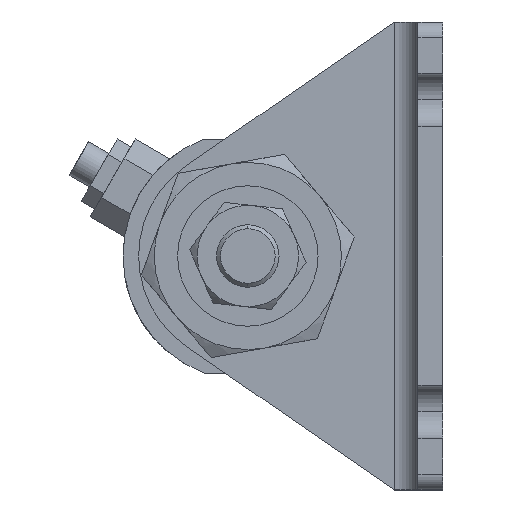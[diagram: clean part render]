
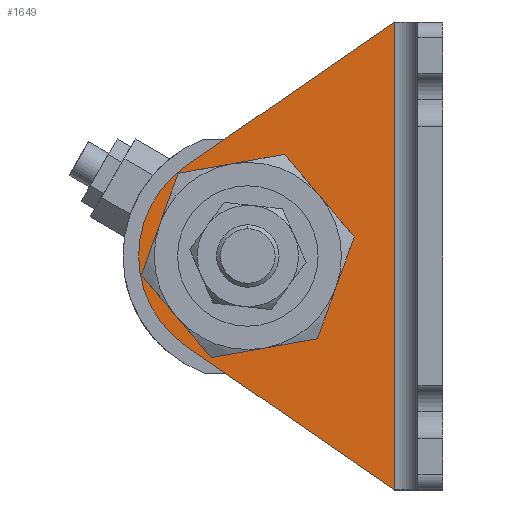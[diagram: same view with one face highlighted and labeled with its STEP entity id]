
A CAD part, left-side view. The second image highlights one B-rep face of the part: STEP entity #1649.
In plain terms, the highlighted planar face has unit normal (-1, 0, 0) as drawn and (1, 0, 0) by its records, which use the part's own axes.
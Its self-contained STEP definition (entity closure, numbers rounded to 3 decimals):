
#46 = VERTEX_POINT ( 'NONE', #1816 ) ;
#96 = CARTESIAN_POINT ( 'NONE',  ( 3.2, 15.5, -30. ) ) ;
#237 = EDGE_CURVE ( 'NONE', #5206, #3069, #5760, .T. ) ;
#341 = VERTEX_POINT ( 'NONE', #1687 ) ;
#432 = EDGE_CURVE ( 'NONE', #46, #4196, #3707, .T. ) ;
#788 = VECTOR ( 'NONE', #2958, 1000. ) ;
#813 = DIRECTION ( 'NONE',  ( 0., 1., 0. ) ) ;
#939 = ORIENTED_EDGE ( 'NONE', *, *, #1078, .T. ) ;
#991 = DIRECTION ( 'NONE',  ( 0., 0.823, 0.568 ) ) ;
#1047 = DIRECTION ( 'NONE',  ( 0., 1., 0. ) ) ;
#1075 = CIRCLE ( 'NONE', #3969, 14. ) ;
#1078 = EDGE_CURVE ( 'NONE', #3069, #4551, #1972, .T. ) ;
#1249 = ORIENTED_EDGE ( 'NONE', *, *, #237, .T. ) ;
#1400 = VECTOR ( 'NONE', #991, 1000. ) ;
#1570 = CARTESIAN_POINT ( 'NONE',  ( 3.2, 32.956, -41.519 ) ) ;
#1634 = CARTESIAN_POINT ( 'NONE',  ( 3.2, 6.2, -60. ) ) ;
#1649 = ADVANCED_FACE ( 'NONE', ( #5362, #4244 ), #3767, .T. ) ;
#1687 = CARTESIAN_POINT ( 'NONE',  ( 3.2, 34.5, -30. ) ) ;
#1709 = ORIENTED_EDGE ( 'NONE', *, *, #4716, .F. ) ;
#1712 = CARTESIAN_POINT ( 'NONE',  ( 3.2, 32.226, -17.976 ) ) ;
#1764 = EDGE_LOOP ( 'NONE', ( #1709, #2095 ) ) ;
#1793 = DIRECTION ( 'NONE',  ( 1., 0., 0. ) ) ;
#1816 = CARTESIAN_POINT ( 'NONE',  ( 3.2, 39., -30. ) ) ;
#1873 = EDGE_LOOP ( 'NONE', ( #939, #5212, #4983, #5643, #1249 ) ) ;
#1887 = DIRECTION ( 'NONE',  ( 0., 1., 0. ) ) ;
#1972 = LINE ( 'NONE', #2832, #1400 ) ;
#2085 = CIRCLE ( 'NONE', #2243, 9.5 ) ;
#2095 = ORIENTED_EDGE ( 'NONE', *, *, #2212, .F. ) ;
#2212 = EDGE_CURVE ( 'NONE', #5553, #341, #2528, .T. ) ;
#2243 = AXIS2_PLACEMENT_3D ( 'NONE', #5746, #1793, #3420 ) ;
#2528 = CIRCLE ( 'NONE', #3904, 9.5 ) ;
#2639 = DIRECTION ( 'NONE',  ( 1., 0., 0. ) ) ;
#2655 = AXIS2_PLACEMENT_3D ( 'NONE', #5186, #2639, #813 ) ;
#2731 = DIRECTION ( 'NONE',  ( 0., 1., 0. ) ) ;
#2762 = DIRECTION ( 'NONE',  ( 0., 0., -1. ) ) ;
#2832 = CARTESIAN_POINT ( 'NONE',  ( 3.2, 4.169, -61.403 ) ) ;
#2958 = DIRECTION ( 'NONE',  ( 0., 0.823, -0.568 ) ) ;
#3069 = VERTEX_POINT ( 'NONE', #1634 ) ;
#3131 = DIRECTION ( 'NONE',  ( 1., 0., 0. ) ) ;
#3358 = CARTESIAN_POINT ( 'NONE',  ( 3.2, 25., -30. ) ) ;
#3420 = DIRECTION ( 'NONE',  ( 0., 1., 0. ) ) ;
#3433 = EDGE_CURVE ( 'NONE', #4551, #46, #1075, .T. ) ;
#3494 = CARTESIAN_POINT ( 'NONE',  ( 3.2, 6.2, 0. ) ) ;
#3620 = DIRECTION ( 'NONE',  ( 1., 0., 0. ) ) ;
#3707 = CIRCLE ( 'NONE', #2655, 14. ) ;
#3726 = CARTESIAN_POINT ( 'NONE',  ( 3.2, 32.956, -18.481 ) ) ;
#3767 = PLANE ( 'NONE',  #4171 ) ;
#3826 = EDGE_CURVE ( 'NONE', #5206, #4196, #4366, .T. ) ;
#3904 = AXIS2_PLACEMENT_3D ( 'NONE', #3358, #3620, #1047 ) ;
#3969 = AXIS2_PLACEMENT_3D ( 'NONE', #5635, #3131, #2731 ) ;
#4043 = VECTOR ( 'NONE', #2762, 1000. ) ;
#4171 = AXIS2_PLACEMENT_3D ( 'NONE', #5190, #4894, #1887 ) ;
#4196 = VERTEX_POINT ( 'NONE', #3726 ) ;
#4244 = FACE_OUTER_BOUND ( 'NONE', #1873, .T. ) ;
#4355 = CARTESIAN_POINT ( 'NONE',  ( 3.2, 6.2, -60. ) ) ;
#4366 = LINE ( 'NONE', #1712, #788 ) ;
#4551 = VERTEX_POINT ( 'NONE', #1570 ) ;
#4716 = EDGE_CURVE ( 'NONE', #341, #5553, #2085, .T. ) ;
#4894 = DIRECTION ( 'NONE',  ( 1., 0., 0. ) ) ;
#4983 = ORIENTED_EDGE ( 'NONE', *, *, #432, .T. ) ;
#5186 = CARTESIAN_POINT ( 'NONE',  ( 3.2, 25., -30. ) ) ;
#5190 = CARTESIAN_POINT ( 'NONE',  ( 3.2, 3.2, -60. ) ) ;
#5206 = VERTEX_POINT ( 'NONE', #3494 ) ;
#5212 = ORIENTED_EDGE ( 'NONE', *, *, #3433, .T. ) ;
#5362 = FACE_BOUND ( 'NONE', #1764, .T. ) ;
#5553 = VERTEX_POINT ( 'NONE', #96 ) ;
#5635 = CARTESIAN_POINT ( 'NONE',  ( 3.2, 25., -30. ) ) ;
#5643 = ORIENTED_EDGE ( 'NONE', *, *, #3826, .F. ) ;
#5746 = CARTESIAN_POINT ( 'NONE',  ( 3.2, 25., -30. ) ) ;
#5760 = LINE ( 'NONE', #4355, #4043 ) ;
